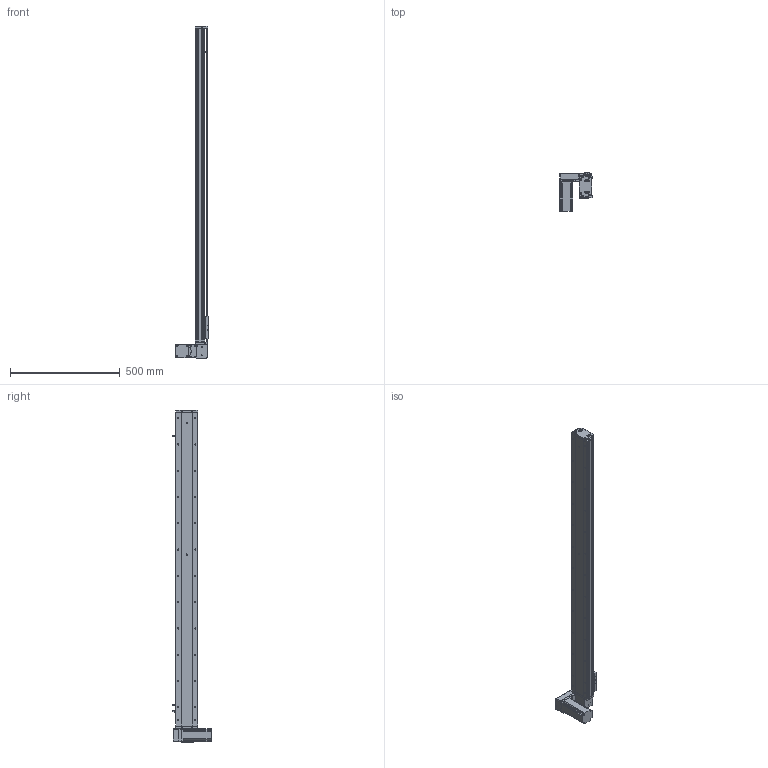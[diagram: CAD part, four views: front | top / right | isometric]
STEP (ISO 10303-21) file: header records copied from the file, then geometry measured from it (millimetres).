
FILE_DESCRIPTION (( 'STEP AP214' ), '1' );
FILE_NAME ('KSD100B-S1250-MLD-CM.STEP', '2019-11-11T03:13:59', ( '微软用户' ), ( '微软中国' ), 'SwSTEP 2.0', 'SolidWorks 2014', '' );
FILE_SCHEMA (( 'AUTOMOTIVE_DESIGN' ));
Length unit declared in the file: millimetre
Products named in the file (12): 100宽同步带安装板半封闭; 100宽马达安装板同步带; 100遵傷啣肮祭湍; 100宽底板半封闭同步带1250行程; KSD100B-S1250-MLD-CM; 悵誘欶奻狟殏; 100宽马达安装板连板上下折丝杆同步带; 台达ECMA－C20604AS伺服电机; U倰嫖萇EEㄜSX672; 覜茼え100遵圉猾敕; 100宽防尘板1250行程-同步带; 100宽马达安装板同步带左
Assembly tree (13 placements, depth 2):
  KSD100B-S1250-MLD-CM
    100宽底板半封闭同步带1250行程
    100遵傷啣肮祭湍
    100宽马达安装板同步带
    100宽同步带安装板半封闭
    100宽马达安装板同步带左
    100宽防尘板1250行程-同步带
    覜茼え100遵圉猾敕
    U倰嫖萇EEㄜSX672  x3
    台达ECMA－C20604AS伺服电机
    100宽马达安装板连板上下折丝杆同步带
    悵誘欶奻狟殏
Bounding box: 148 x 174.7 x 1515 mm (x, y, z)
Volume: 3317540.5 mm3; surface area: 1116270.5 mm2
Topology: 14 solids, 14 shells, 1555 faces, 4398 edges, 2787 vertices
Faces by surface type: cylinder 797, plane 603, cone 155
Entity records: 56275 total; most frequent: CARTESIAN_POINT 11638, DIRECTION 7646, ORIENTED_EDGE 7392, EDGE_CURVE 3696, AXIS2_PLACEMENT_3D 2805, VERTEX_POINT 2411, VECTOR 2036, LINE 2036
